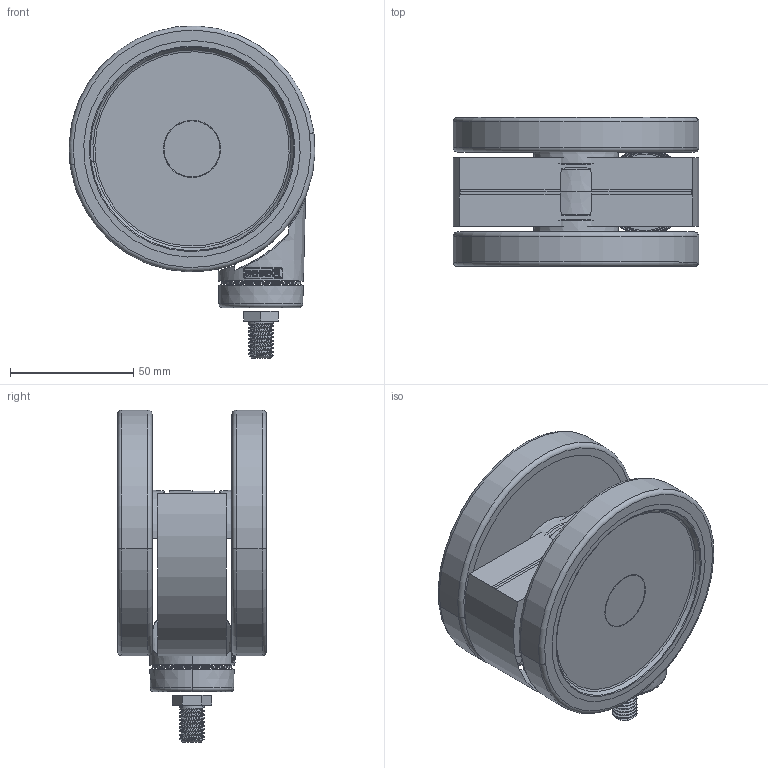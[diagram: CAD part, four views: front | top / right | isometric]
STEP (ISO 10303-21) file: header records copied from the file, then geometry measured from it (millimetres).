
FILE_DESCRIPTION((''),'2;1');
FILE_NAME('PRT0027','2026-04-08T18:59:27',('Administrator'),(''),'CREO PARAMETRIC BY PTC INC, 2022124','CREO PARAMETRIC BY PTC INC, 2022124','');
FILE_SCHEMA(('AUTOMOTIVE_DESIGN { 1 0 10303 214 1 1 1 1 }'));
Length unit declared in the file: millimetre
Products named in the file (1): PRT0027
Bounding box: 99.99 x 60.5 x 134.95 mm (x, y, z)
Surface area: 49993.9 mm2 (no closed solid volume)
Topology: 0 solids, 29 shells, 132 faces, 731 edges, 627 vertices
Faces by surface type: torus 33, cone 28, cylinder 27, plane 26, bspline 18
Entity records: 14380 total; most frequent: CARTESIAN_POINT 8468, ORIENTED_EDGE 950, DIRECTION 792, EDGE_CURVE 731, VERTEX_POINT 627, B_SPLINE_CURVE_WITH_KNOTS 402, AXIS2_PLACEMENT_3D 336, CIRCLE 212
